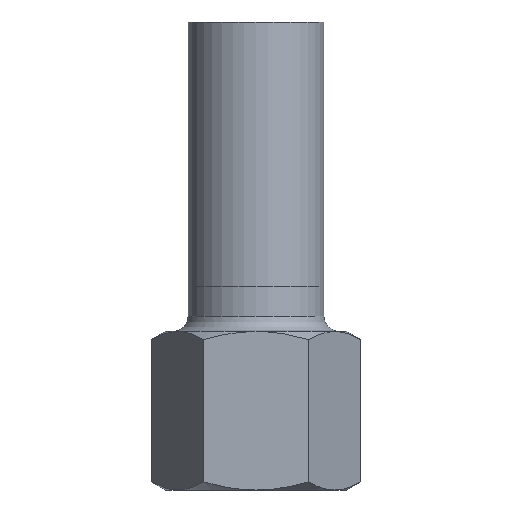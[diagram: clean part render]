
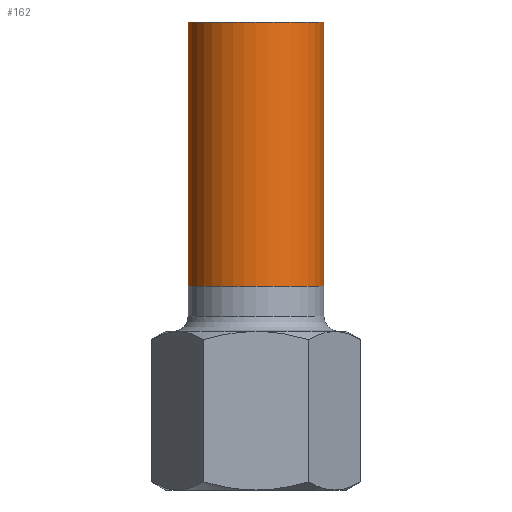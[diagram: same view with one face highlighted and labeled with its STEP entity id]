
A CAD part, front view. The second image highlights one B-rep face of the part: STEP entity #162.
In plain terms, the highlighted cylindrical face has radius 9 mm (diameter 18 mm), a full revolution.
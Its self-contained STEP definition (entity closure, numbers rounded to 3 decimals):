
#135=CARTESIAN_POINT('',(0.0,0.0,0.0));
#136=DIRECTION('',(0.0,0.0,-1.0));
#137=DIRECTION('',(-1.0,0.0,0.0));
#138=AXIS2_PLACEMENT_3D('',#135,#136,#137);
#139=CYLINDRICAL_SURFACE('',#138,9.0);
#140=CARTESIAN_POINT('',(9.0,0.,-35.0));
#141=VERTEX_POINT('',#140);
#142=CARTESIAN_POINT('',(0.0,0.0,-35.0));
#143=DIRECTION('',(0.0,0.0,1.0));
#144=DIRECTION('',(-1.0,0.0,0.0));
#145=AXIS2_PLACEMENT_3D('',#142,#143,#144);
#146=CIRCLE('',#145,9.0);
#147=EDGE_CURVE('',#141,#141,#146,.T.);
#148=ORIENTED_EDGE('',*,*,#147,.T.);
#149=EDGE_LOOP('',(#148));
#150=FACE_OUTER_BOUND('',#149,.T.);
#151=CARTESIAN_POINT('',(9.0,0.,0.0));
#152=VERTEX_POINT('',#151);
#153=CARTESIAN_POINT('',(0.0,0.0,0.0));
#154=DIRECTION('',(0.0,0.0,-1.0));
#155=DIRECTION('',(-1.0,0.0,0.0));
#156=AXIS2_PLACEMENT_3D('',#153,#154,#155);
#157=CIRCLE('',#156,9.0);
#158=EDGE_CURVE('',#152,#152,#157,.T.);
#159=ORIENTED_EDGE('',*,*,#158,.T.);
#160=EDGE_LOOP('',(#159));
#161=FACE_BOUND('',#160,.T.);
#162=ADVANCED_FACE('',(#150,#161),#139,.T.);
